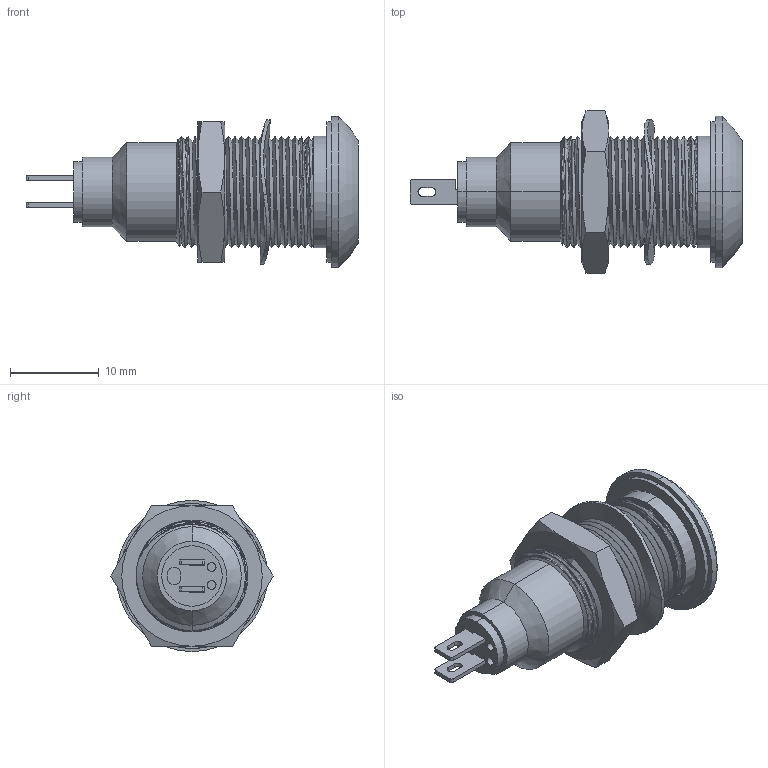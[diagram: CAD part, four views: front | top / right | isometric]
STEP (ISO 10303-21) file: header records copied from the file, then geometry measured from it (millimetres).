
FILE_DESCRIPTION (( 'STEP AP203' ), '1' );
FILE_NAME ('538 WITH TAGS.STEP', '2016-01-06T14:48:58', ( '' ), ( '' ), 'SwSTEP 2.0', 'SolidWorks 2015', '' );
FILE_SCHEMA (( 'CONFIG_CONTROL_DESIGN' ));
Length unit declared in the file: millimetre
Products named in the file (9): COM3576_COM3579; 10FDR; COM7808_NEW; COM4915MOD_COM7834-7864; 538 WITH TAGS; M8SSCWASHER; COM7807HALFTAG; COM3579; COM5000
Assembly tree (9 placements, depth 2):
  538 WITH TAGS
    COM4915MOD_COM7834-7864
    COM7808_NEW
    COM5000
    COM3576_COM3579
    M8SSCWASHER
    10FDR
    COM7807HALFTAG  x2
    COM3579
Bounding box: 37.35 x 18.24 x 17 mm (x, y, z)
Volume: 2889.4 mm3; surface area: 4203.9 mm2
Topology: 9 solids, 9 shells, 417 faces, 940 edges, 574 vertices
Faces by surface type: cylinder 151, torus 136, plane 104, cone 16, bspline 10
Entity records: 16023 total; most frequent: CARTESIAN_POINT 6097, DIRECTION 2066, ORIENTED_EDGE 1778, AXIS2_PLACEMENT_3D 898, EDGE_CURVE 889, VERTEX_POINT 540, CIRCLE 498, EDGE_LOOP 453
